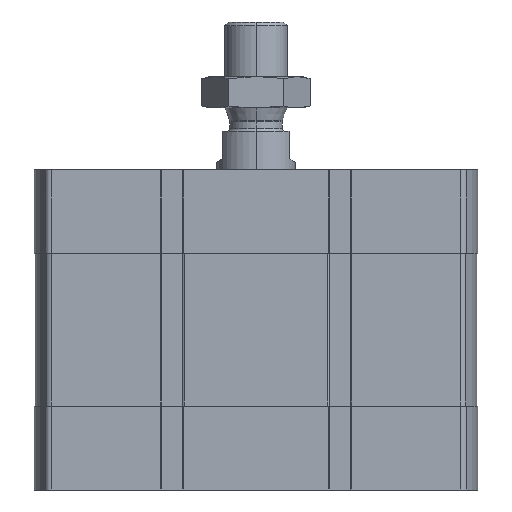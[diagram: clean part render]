
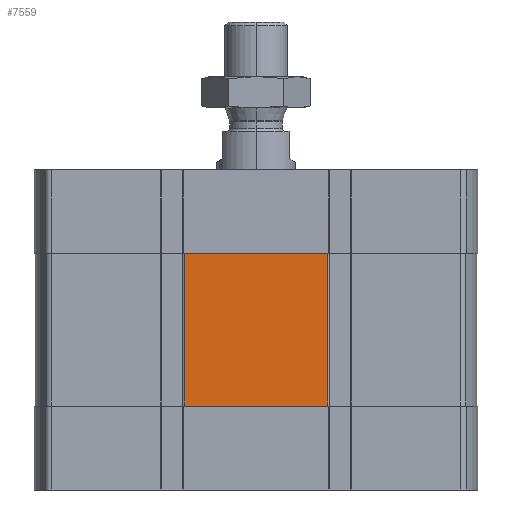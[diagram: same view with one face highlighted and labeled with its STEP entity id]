
A CAD part, left-side view. The second image highlights one B-rep face of the part: STEP entity #7559.
In plain terms, the highlighted planar face has unit normal (-1, 0, 0).
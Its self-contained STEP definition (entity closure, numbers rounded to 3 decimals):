
#64 = ORIENTED_EDGE ( 'NONE', *, *, #7803, .T. ) ;
#777 = VERTEX_POINT ( 'NONE', #12657 ) ;
#1675 = ORIENTED_EDGE ( 'NONE', *, *, #16074, .T. ) ;
#2299 = DIRECTION ( 'NONE',  ( 0., 0., 1. ) ) ;
#3087 = CARTESIAN_POINT ( 'NONE',  ( -56.5, -18.345, -60.5 ) ) ;
#3365 = VERTEX_POINT ( 'NONE', #6739 ) ;
#3880 = VECTOR ( 'NONE', #19783, 1000. ) ;
#4125 = FACE_OUTER_BOUND ( 'NONE', #11836, .T. ) ;
#4664 = LINE ( 'NONE', #19581, #11324 ) ;
#4869 = CARTESIAN_POINT ( 'NONE',  ( -56.5, 18.345, -60.5 ) ) ;
#6164 = VECTOR ( 'NONE', #12658, 1000. ) ;
#6228 = CARTESIAN_POINT ( 'NONE',  ( -56.5, 18.345, -21.5 ) ) ;
#6739 = CARTESIAN_POINT ( 'NONE',  ( -56.5, 18.345, -21.5 ) ) ;
#7040 = PLANE ( 'NONE',  #9366 ) ;
#7369 = LINE ( 'NONE', #12291, #18968 ) ;
#7559 = ADVANCED_FACE ( 'NONE', ( #4125 ), #7040, .T. ) ;
#7803 = EDGE_CURVE ( 'NONE', #15174, #12648, #16555, .T. ) ;
#9366 = AXIS2_PLACEMENT_3D ( 'NONE', #13569, #16893, #2299 ) ;
#11324 = VECTOR ( 'NONE', #16563, 1000. ) ;
#11836 = EDGE_LOOP ( 'NONE', ( #16837, #19885, #64, #1675 ) ) ;
#12291 = CARTESIAN_POINT ( 'NONE',  ( -56.5, -18.345, -60.5 ) ) ;
#12648 = VERTEX_POINT ( 'NONE', #3087 ) ;
#12657 = CARTESIAN_POINT ( 'NONE',  ( -56.5, -18.345, -21.5 ) ) ;
#12658 = DIRECTION ( 'NONE',  ( 0., -1., 0. ) ) ;
#13569 = CARTESIAN_POINT ( 'NONE',  ( -56.5, 18.345, -60.5 ) ) ;
#15174 = VERTEX_POINT ( 'NONE', #19909 ) ;
#16074 = EDGE_CURVE ( 'NONE', #12648, #777, #7369, .T. ) ;
#16555 = LINE ( 'NONE', #4869, #3880 ) ;
#16563 = DIRECTION ( 'NONE',  ( 0., 0., 1. ) ) ;
#16837 = ORIENTED_EDGE ( 'NONE', *, *, #21249, .F. ) ;
#16893 = DIRECTION ( 'NONE',  ( -1., 0., 0. ) ) ;
#17925 = LINE ( 'NONE', #6228, #6164 ) ;
#18850 = DIRECTION ( 'NONE',  ( 0., 0., 1. ) ) ;
#18968 = VECTOR ( 'NONE', #18850, 1000. ) ;
#19581 = CARTESIAN_POINT ( 'NONE',  ( -56.5, 18.345, -60.5 ) ) ;
#19783 = DIRECTION ( 'NONE',  ( 0., -1., 0. ) ) ;
#19885 = ORIENTED_EDGE ( 'NONE', *, *, #20511, .F. ) ;
#19909 = CARTESIAN_POINT ( 'NONE',  ( -56.5, 18.345, -60.5 ) ) ;
#20511 = EDGE_CURVE ( 'NONE', #15174, #3365, #4664, .T. ) ;
#21249 = EDGE_CURVE ( 'NONE', #3365, #777, #17925, .T. ) ;
